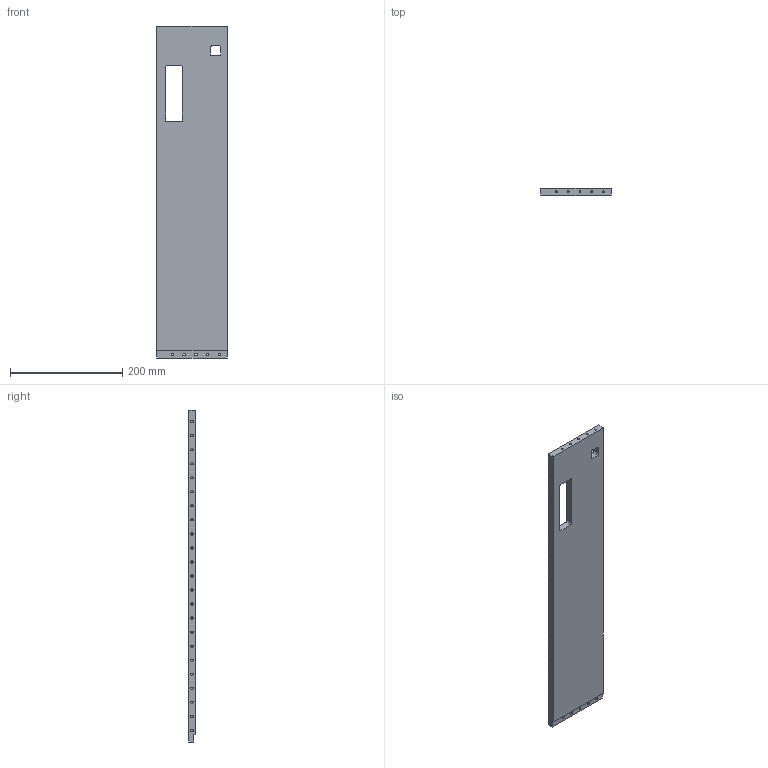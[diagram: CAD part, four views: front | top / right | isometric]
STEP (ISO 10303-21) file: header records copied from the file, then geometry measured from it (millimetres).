
FILE_DESCRIPTION(/* description */ (''),/* implementation_level */ '2;1');
FILE_NAME(/* name */ 'C:\Users\strothej\Documents\ActualDocuments\MicroscopeParts\TwoPhotonSystem\ScanningMechanics\v34\Drawings\Enclosure_Panel5.stp',/* time_stamp */ '2017-09-11T12:11:06-07:00',/* author */ ('strothej'),/* organization */ (''),/* preprocessor_version */ 'ST-DEVELOPER v16.1',/* originating_system */ 'Autodesk Inventor 2016',/* authorisation */ '');
FILE_SCHEMA (('AUTOMOTIVE_DESIGN { 1 0 10303 214 3 1 1 }'));
Length unit declared in the file: millimetre
Products named in the file (1): Enclosure_Panel5
Bounding box: 126 x 12 x 591 mm (x, y, z)
Volume: 842596 mm3; surface area: 169592.3 mm2
Topology: 1 solids, 1 shells, 145 faces, 361 edges, 223 vertices
Faces by surface type: cylinder 71, cone 53, plane 21
Full cylindrical faces by diameter (mm): 2.013 x25, 3.242 x5, 4.134 x23, 4.5 x5, 8 x5
Entity records: 3288 total; most frequent: DIRECTION 626, CARTESIAN_POINT 508, ORIENTED_EDGE 384, AXIS2_PLACEMENT_3D 288, EDGE_LOOP 280, EDGE_CURVE 192, VERTEX_POINT 170, FACE_OUTER_BOUND 145
